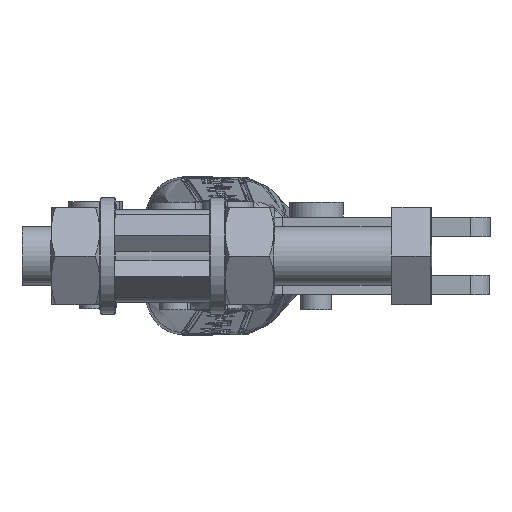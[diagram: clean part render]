
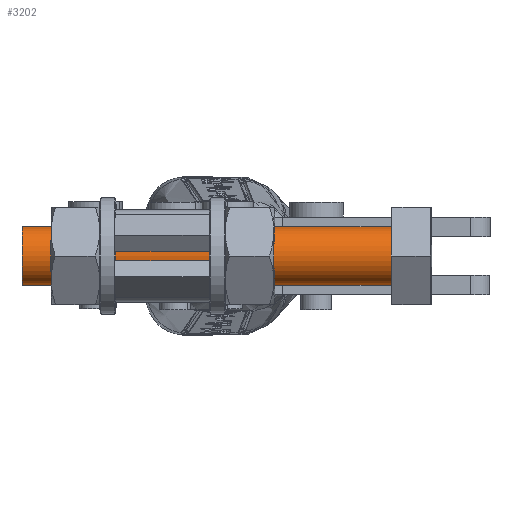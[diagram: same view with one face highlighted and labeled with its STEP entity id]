
A CAD part, left-side view. The second image highlights one B-rep face of the part: STEP entity #3202.
In plain terms, the highlighted cylindrical face has radius 3 mm (diameter 6 mm), a partial arc.
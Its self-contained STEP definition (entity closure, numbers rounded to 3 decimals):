
#516 = DIRECTION ( 'NONE',  ( 0., -1., 0. ) ) ;
#1236 = ORIENTED_EDGE ( 'NONE', *, *, #11338, .F. ) ;
#2346 = DIRECTION ( 'NONE',  ( 0., -1., 0. ) ) ;
#2584 = ORIENTED_EDGE ( 'NONE', *, *, #21359, .T. ) ;
#3202 = ADVANCED_FACE ( 'NONE', ( #4377 ), #10488, .T. ) ;
#3717 = VERTEX_POINT ( 'NONE', #4529 ) ;
#4377 = FACE_OUTER_BOUND ( 'NONE', #19444, .T. ) ;
#4529 = CARTESIAN_POINT ( 'NONE',  ( 0., 0., -3. ) ) ;
#4568 = DIRECTION ( 'NONE',  ( 0., 0., 1. ) ) ;
#6179 = VECTOR ( 'NONE', #19177, 1000. ) ;
#6811 = ORIENTED_EDGE ( 'NONE', *, *, #8278, .T. ) ;
#8278 = EDGE_CURVE ( 'NONE', #27933, #12244, #13114, .T. ) ;
#9282 = LINE ( 'NONE', #22032, #33783 ) ;
#9564 = CARTESIAN_POINT ( 'NONE',  ( 0., 0., 3. ) ) ;
#9833 = DIRECTION ( 'NONE',  ( 0., 1., 0. ) ) ;
#10488 = CYLINDRICAL_SURFACE ( 'NONE', #13176, 3. ) ;
#10767 = AXIS2_PLACEMENT_3D ( 'NONE', #16100, #516, #18727 ) ;
#11338 = EDGE_CURVE ( 'NONE', #27933, #14832, #22819, .T. ) ;
#12244 = VERTEX_POINT ( 'NONE', #9564 ) ;
#13114 = LINE ( 'NONE', #29605, #6179 ) ;
#13176 = AXIS2_PLACEMENT_3D ( 'NONE', #20197, #9833, #4568 ) ;
#14832 = VERTEX_POINT ( 'NONE', #19246 ) ;
#16100 = CARTESIAN_POINT ( 'NONE',  ( 0., -38., 0. ) ) ;
#16815 = CIRCLE ( 'NONE', #21833, 3. ) ;
#17976 = CARTESIAN_POINT ( 'NONE',  ( 0., 0., 0. ) ) ;
#18288 = ORIENTED_EDGE ( 'NONE', *, *, #28092, .F. ) ;
#18727 = DIRECTION ( 'NONE',  ( -1., 0., 0. ) ) ;
#19177 = DIRECTION ( 'NONE',  ( 0., 1., 0. ) ) ;
#19246 = CARTESIAN_POINT ( 'NONE',  ( 0., -38., -3. ) ) ;
#19444 = EDGE_LOOP ( 'NONE', ( #18288, #1236, #6811, #2584 ) ) ;
#20197 = CARTESIAN_POINT ( 'NONE',  ( 0., -60., 0. ) ) ;
#20598 = DIRECTION ( 'NONE',  ( 0., 0., 1. ) ) ;
#21359 = EDGE_CURVE ( 'NONE', #12244, #3717, #16815, .T. ) ;
#21833 = AXIS2_PLACEMENT_3D ( 'NONE', #17976, #2346, #20598 ) ;
#22032 = CARTESIAN_POINT ( 'NONE',  ( 0., -60., -3. ) ) ;
#22819 = CIRCLE ( 'NONE', #10767, 3. ) ;
#24631 = DIRECTION ( 'NONE',  ( 0., 1., 0. ) ) ;
#25902 = CARTESIAN_POINT ( 'NONE',  ( 0., -38., 3. ) ) ;
#27933 = VERTEX_POINT ( 'NONE', #25902 ) ;
#28092 = EDGE_CURVE ( 'NONE', #14832, #3717, #9282, .T. ) ;
#29605 = CARTESIAN_POINT ( 'NONE',  ( 0., -60., 3. ) ) ;
#33783 = VECTOR ( 'NONE', #24631, 1000. ) ;
